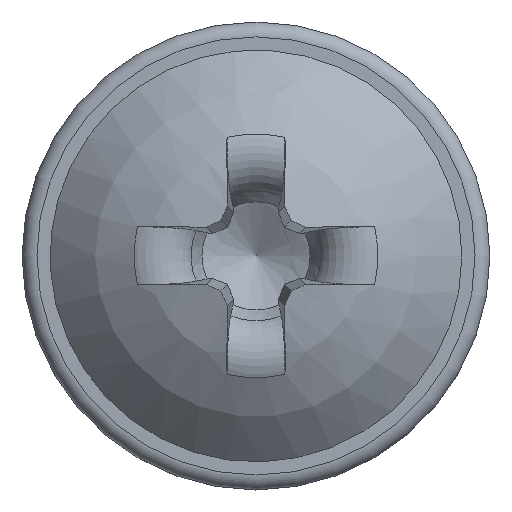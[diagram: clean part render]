
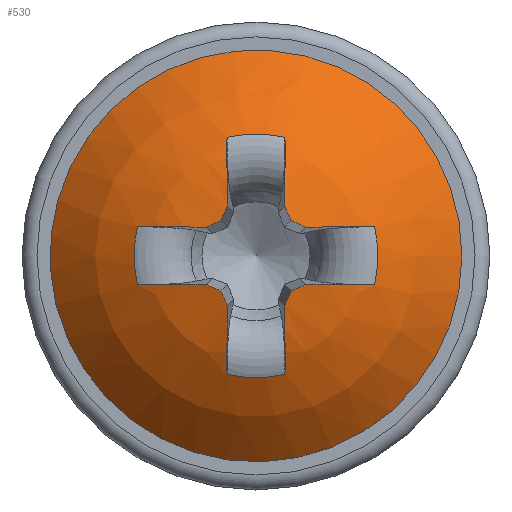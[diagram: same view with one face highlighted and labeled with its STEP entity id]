
A CAD part, top view. The second image highlights one B-rep face of the part: STEP entity #530.
In plain terms, the highlighted spherical face has radius 3.212 mm.
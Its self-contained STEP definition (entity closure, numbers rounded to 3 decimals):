
#382=SPHERICAL_SURFACE('',#2411,3.212);
#530=ADVANCED_FACE('',(#883,#884),#382,.T.);
#883=FACE_BOUND('',#905,.T.);
#884=FACE_BOUND('',#906,.T.);
#905=EDGE_LOOP('',(#1119));
#906=EDGE_LOOP('',(#1120,#1121,#1122,#1123,#1124,#1125,#1126,#1127,#1128,
#1129,#1130,#1131,#1132,#1133,#1134,#1135,#1136,#1137,#1138,#1139));
#1119=ORIENTED_EDGE('',*,*,#2051,.T.);
#1120=ORIENTED_EDGE('',*,*,#2052,.F.);
#1121=ORIENTED_EDGE('',*,*,#2053,.T.);
#1122=ORIENTED_EDGE('',*,*,#2054,.F.);
#1123=ORIENTED_EDGE('',*,*,#2055,.F.);
#1124=ORIENTED_EDGE('',*,*,#2056,.F.);
#1125=ORIENTED_EDGE('',*,*,#2057,.F.);
#1126=ORIENTED_EDGE('',*,*,#2058,.T.);
#1127=ORIENTED_EDGE('',*,*,#2059,.F.);
#1128=ORIENTED_EDGE('',*,*,#2060,.F.);
#1129=ORIENTED_EDGE('',*,*,#2061,.F.);
#1130=ORIENTED_EDGE('',*,*,#2062,.F.);
#1131=ORIENTED_EDGE('',*,*,#2063,.T.);
#1132=ORIENTED_EDGE('',*,*,#2064,.F.);
#1133=ORIENTED_EDGE('',*,*,#2065,.F.);
#1134=ORIENTED_EDGE('',*,*,#2066,.F.);
#1135=ORIENTED_EDGE('',*,*,#2067,.F.);
#1136=ORIENTED_EDGE('',*,*,#2068,.T.);
#1137=ORIENTED_EDGE('',*,*,#2069,.F.);
#1138=ORIENTED_EDGE('',*,*,#2070,.F.);
#1139=ORIENTED_EDGE('',*,*,#2071,.F.);
#1825=VERTEX_POINT('',#5721);
#1826=VERTEX_POINT('',#5723);
#1827=VERTEX_POINT('',#5724);
#1828=VERTEX_POINT('',#5726);
#1829=VERTEX_POINT('',#5728);
#1830=VERTEX_POINT('',#5730);
#1831=VERTEX_POINT('',#5732);
#1832=VERTEX_POINT('',#5734);
#1833=VERTEX_POINT('',#5736);
#1834=VERTEX_POINT('',#5738);
#1835=VERTEX_POINT('',#5740);
#1836=VERTEX_POINT('',#5742);
#1837=VERTEX_POINT('',#5744);
#1838=VERTEX_POINT('',#5746);
#1839=VERTEX_POINT('',#5748);
#1840=VERTEX_POINT('',#5750);
#1841=VERTEX_POINT('',#5752);
#1842=VERTEX_POINT('',#5754);
#1843=VERTEX_POINT('',#5756);
#1844=VERTEX_POINT('',#5758);
#1845=VERTEX_POINT('',#5760);
#2051=EDGE_CURVE('',#1825,#1825,#2346,.T.);
#2052=EDGE_CURVE('',#1826,#1827,#2347,.T.);
#2053=EDGE_CURVE('',#1826,#1828,#2348,.T.);
#2054=EDGE_CURVE('',#1829,#1828,#2349,.T.);
#2055=EDGE_CURVE('',#1830,#1829,#2350,.T.);
#2056=EDGE_CURVE('',#1831,#1830,#2351,.T.);
#2057=EDGE_CURVE('',#1832,#1831,#2352,.T.);
#2058=EDGE_CURVE('',#1832,#1833,#2353,.T.);
#2059=EDGE_CURVE('',#1834,#1833,#2354,.T.);
#2060=EDGE_CURVE('',#1835,#1834,#2355,.T.);
#2061=EDGE_CURVE('',#1836,#1835,#2356,.T.);
#2062=EDGE_CURVE('',#1837,#1836,#2357,.T.);
#2063=EDGE_CURVE('',#1837,#1838,#2358,.T.);
#2064=EDGE_CURVE('',#1839,#1838,#2359,.T.);
#2065=EDGE_CURVE('',#1840,#1839,#2360,.T.);
#2066=EDGE_CURVE('',#1841,#1840,#2361,.T.);
#2067=EDGE_CURVE('',#1842,#1841,#2362,.T.);
#2068=EDGE_CURVE('',#1842,#1843,#2363,.T.);
#2069=EDGE_CURVE('',#1844,#1843,#2364,.T.);
#2070=EDGE_CURVE('',#1845,#1844,#2365,.T.);
#2071=EDGE_CURVE('',#1827,#1845,#2366,.T.);
#2346=CIRCLE('',#2390,2.42);
#2347=CIRCLE('',#2391,3.212);
#2348=CIRCLE('',#2392,1.434);
#2349=CIRCLE('',#2393,3.212);
#2350=CIRCLE('',#2394,3.208);
#2351=CIRCLE('',#2395,3.208);
#2352=CIRCLE('',#2396,3.212);
#2353=CIRCLE('',#2397,1.434);
#2354=CIRCLE('',#2398,3.212);
#2355=CIRCLE('',#2399,3.208);
#2356=CIRCLE('',#2400,3.208);
#2357=CIRCLE('',#2401,3.212);
#2358=CIRCLE('',#2402,1.434);
#2359=CIRCLE('',#2403,3.212);
#2360=CIRCLE('',#2404,3.208);
#2361=CIRCLE('',#2405,3.208);
#2362=CIRCLE('',#2406,3.212);
#2363=CIRCLE('',#2407,1.434);
#2364=CIRCLE('',#2408,3.212);
#2365=CIRCLE('',#2409,3.208);
#2366=CIRCLE('',#2410,3.208);
#2390=AXIS2_PLACEMENT_3D('',#5720,#2478,#2479);
#2391=AXIS2_PLACEMENT_3D('',#5722,#2480,#2481);
#2392=AXIS2_PLACEMENT_3D('',#5725,#2482,#2483);
#2393=AXIS2_PLACEMENT_3D('',#5727,#2484,#2485);
#2394=AXIS2_PLACEMENT_3D('',#5729,#2486,#2487);
#2395=AXIS2_PLACEMENT_3D('',#5731,#2488,#2489);
#2396=AXIS2_PLACEMENT_3D('',#5733,#2490,#2491);
#2397=AXIS2_PLACEMENT_3D('',#5735,#2492,#2493);
#2398=AXIS2_PLACEMENT_3D('',#5737,#2494,#2495);
#2399=AXIS2_PLACEMENT_3D('',#5739,#2496,#2497);
#2400=AXIS2_PLACEMENT_3D('',#5741,#2498,#2499);
#2401=AXIS2_PLACEMENT_3D('',#5743,#2500,#2501);
#2402=AXIS2_PLACEMENT_3D('',#5745,#2502,#2503);
#2403=AXIS2_PLACEMENT_3D('',#5747,#2504,#2505);
#2404=AXIS2_PLACEMENT_3D('',#5749,#2506,#2507);
#2405=AXIS2_PLACEMENT_3D('',#5751,#2508,#2509);
#2406=AXIS2_PLACEMENT_3D('',#5753,#2510,#2511);
#2407=AXIS2_PLACEMENT_3D('',#5755,#2512,#2513);
#2408=AXIS2_PLACEMENT_3D('',#5757,#2514,#2515);
#2409=AXIS2_PLACEMENT_3D('',#5759,#2516,#2517);
#2410=AXIS2_PLACEMENT_3D('',#5761,#2518,#2519);
#2411=AXIS2_PLACEMENT_3D('',#5762,#2520,#2521);
#2478=DIRECTION('',(0.,0.,1.));
#2479=DIRECTION('',(1.,0.,0.));
#2480=DIRECTION('',(-0.996,-0.035,0.087));
#2481=DIRECTION('',(0.087,0.,0.996));
#2482=DIRECTION('',(0.,0.,-1.));
#2483=DIRECTION('',(-1.,0.,0.));
#2484=DIRECTION('',(0.996,-0.035,0.087));
#2485=DIRECTION('',(0.087,0.,-0.996));
#2486=DIRECTION('',(0.907,0.404,0.122));
#2487=DIRECTION('',(-0.407,0.914,0.));
#2488=DIRECTION('',(0.404,0.907,0.122));
#2489=DIRECTION('',(-0.914,0.407,0.));
#2490=DIRECTION('',(-0.035,0.996,0.087));
#2491=DIRECTION('',(0.,-0.087,0.996));
#2492=DIRECTION('',(0.,0.,-1.));
#2493=DIRECTION('',(-1.,0.,0.));
#2494=DIRECTION('',(-0.035,-0.996,0.087));
#2495=DIRECTION('',(0.,-0.087,-0.996));
#2496=DIRECTION('',(0.404,-0.907,0.122));
#2497=DIRECTION('',(0.914,0.407,0.));
#2498=DIRECTION('',(0.907,-0.404,0.122));
#2499=DIRECTION('',(0.407,0.914,0.));
#2500=DIRECTION('',(0.996,0.035,0.087));
#2501=DIRECTION('',(0.087,0.,-0.996));
#2502=DIRECTION('',(0.,0.,-1.));
#2503=DIRECTION('',(-1.,0.,0.));
#2504=DIRECTION('',(-0.996,0.035,0.087));
#2505=DIRECTION('',(0.087,0.,0.996));
#2506=DIRECTION('',(-0.907,-0.404,0.122));
#2507=DIRECTION('',(0.407,-0.914,0.));
#2508=DIRECTION('',(-0.404,-0.907,0.122));
#2509=DIRECTION('',(0.914,-0.407,0.));
#2510=DIRECTION('',(0.035,-0.996,0.087));
#2511=DIRECTION('',(0.,-0.087,-0.996));
#2512=DIRECTION('',(0.,0.,-1.));
#2513=DIRECTION('',(-1.,0.,0.));
#2514=DIRECTION('',(0.035,0.996,0.087));
#2515=DIRECTION('',(0.,-0.087,0.996));
#2516=DIRECTION('',(-0.404,0.907,0.122));
#2517=DIRECTION('',(-0.914,-0.407,0.));
#2518=DIRECTION('',(-0.907,0.404,0.122));
#2519=DIRECTION('',(-0.407,-0.914,0.));
#2520=DIRECTION('',(0.,0.,1.));
#2521=DIRECTION('',(0.,1.,0.));
#5720=CARTESIAN_POINT('',(0.,0.,0.7));
#5721=CARTESIAN_POINT('',(2.42,0.,0.7));
#5722=CARTESIAN_POINT('',(0.04,0.001,-1.416));
#5723=CARTESIAN_POINT('',(0.341,-1.393,1.462));
#5724=CARTESIAN_POINT('',(0.336,-0.585,1.728));
#5725=CARTESIAN_POINT('',(0.,0.,1.462));
#5726=CARTESIAN_POINT('',(-0.341,-1.393,1.462));
#5727=CARTESIAN_POINT('',(-0.04,0.001,-1.416));
#5728=CARTESIAN_POINT('',(-0.336,-0.585,1.728));
#5729=CARTESIAN_POINT('',(-0.143,-0.064,-1.431));
#5730=CARTESIAN_POINT('',(-0.414,-0.414,1.746));
#5731=CARTESIAN_POINT('',(-0.064,-0.143,-1.431));
#5732=CARTESIAN_POINT('',(-0.585,-0.336,1.728));
#5733=CARTESIAN_POINT('',(0.001,-0.04,-1.416));
#5734=CARTESIAN_POINT('',(-1.393,-0.341,1.462));
#5735=CARTESIAN_POINT('',(0.,0.,1.462));
#5736=CARTESIAN_POINT('',(-1.393,0.341,1.462));
#5737=CARTESIAN_POINT('',(0.001,0.04,-1.416));
#5738=CARTESIAN_POINT('',(-0.585,0.336,1.728));
#5739=CARTESIAN_POINT('',(-0.064,0.143,-1.431));
#5740=CARTESIAN_POINT('',(-0.414,0.414,1.746));
#5741=CARTESIAN_POINT('',(-0.143,0.064,-1.431));
#5742=CARTESIAN_POINT('',(-0.336,0.585,1.728));
#5743=CARTESIAN_POINT('',(-0.04,-0.001,-1.416));
#5744=CARTESIAN_POINT('',(-0.341,1.393,1.462));
#5745=CARTESIAN_POINT('',(0.,0.,1.462));
#5746=CARTESIAN_POINT('',(0.341,1.393,1.462));
#5747=CARTESIAN_POINT('',(0.04,-0.001,-1.416));
#5748=CARTESIAN_POINT('',(0.336,0.585,1.728));
#5749=CARTESIAN_POINT('',(0.143,0.064,-1.431));
#5750=CARTESIAN_POINT('',(0.414,0.414,1.746));
#5751=CARTESIAN_POINT('',(0.064,0.143,-1.431));
#5752=CARTESIAN_POINT('',(0.585,0.336,1.728));
#5753=CARTESIAN_POINT('',(-0.001,0.04,-1.416));
#5754=CARTESIAN_POINT('',(1.393,0.341,1.462));
#5755=CARTESIAN_POINT('',(0.,0.,1.462));
#5756=CARTESIAN_POINT('',(1.393,-0.341,1.462));
#5757=CARTESIAN_POINT('',(-0.001,-0.04,-1.416));
#5758=CARTESIAN_POINT('',(0.585,-0.336,1.728));
#5759=CARTESIAN_POINT('',(0.064,-0.143,-1.431));
#5760=CARTESIAN_POINT('',(0.414,-0.414,1.746));
#5761=CARTESIAN_POINT('',(0.143,-0.064,-1.431));
#5762=CARTESIAN_POINT('',(0.,0.,-1.412));
